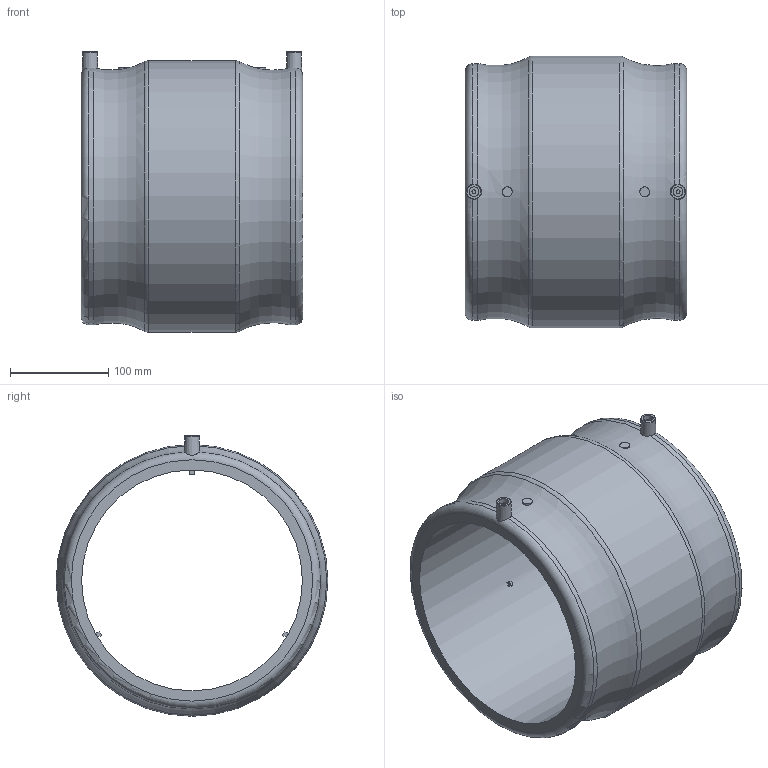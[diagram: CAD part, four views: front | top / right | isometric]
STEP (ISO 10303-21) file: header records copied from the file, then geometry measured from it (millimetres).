
FILE_DESCRIPTION(/* description */ ('Unknown'),/* implementation_level */ '2;1');
FILE_NAME(/* name */ 'MP225C',/* time_stamp */ '2021-02-11T08:38:53+01:00',/* author */ ('Unknown'),/* organization */ ('Unknown'),/* preprocessor_version */ 'ST-DEVELOPER v16.7',/* originating_system */ 'Solid Edge',/* authorisation */ 'Unknown');
FILE_SCHEMA (('AUTOMOTIVE_DESIGN {1 0 10303 214 3 1 1}'));
Length unit declared in the file: millimetre
Products named in the file (1): MP225C
Bounding box: 226 x 277 x 286 mm (x, y, z)
Volume: 3778901.7 mm3; surface area: 378943.3 mm2
Topology: 1 solids, 1 shells, 51 faces, 123 edges, 81 vertices
Faces by surface type: plane 25, cylinder 16, torus 8, cone 2
Full cylindrical faces by diameter (mm): 4 x2, 10 x4, 225 x1, 277 x1
Entity records: 1369 total; most frequent: CARTESIAN_POINT 285, DIRECTION 228, ORIENTED_EDGE 180, AXIS2_PLACEMENT_3D 96, EDGE_CURVE 90, EDGE_LOOP 80, FACE_BOUND 80, VERTEX_POINT 68
